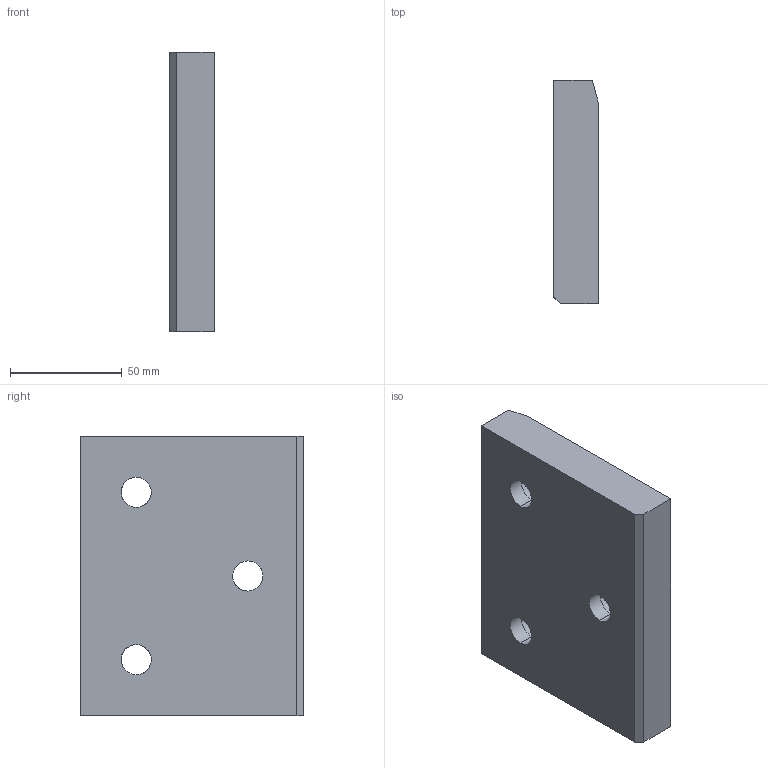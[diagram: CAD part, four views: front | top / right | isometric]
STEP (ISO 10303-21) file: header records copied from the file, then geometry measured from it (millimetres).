
FILE_DESCRIPTION(('CATIA V5 STEP Exchange'),'2;1');
FILE_NAME('C:\Users\borellobunino\Desktop\3D X SITO CF\A915\GSB_OILLESS_G22501125100\STEP-2.03\A915-125X100.stp','2019-07-14T13:48:33+00:00',('none'),('none'),'CATIA Version 5 Release 20 GA (IN-10)','CATIA V5 STEP AP203','none');
FILE_SCHEMA(('CONFIG_CONTROL_DESIGN'));
Length unit declared in the file: millimetre
Products named in the file (1): A915-125X100
Bounding box: 20 x 100 x 125 mm (x, y, z)
Volume: 232113.9 mm3; surface area: 35704.3 mm2
Topology: 1 solids, 1 shells, 30 faces, 99 edges, 74 vertices
Faces by surface type: cylinder 13, plane 11, torus 6
Entity records: 1437 total; most frequent: CARTESIAN_POINT 540, ORIENTED_EDGE 198, DIRECTION 135, EDGE_CURVE 99, AXIS2_PLACEMENT_3D 75, VERTEX_POINT 74, CIRCLE 44, EDGE_LOOP 39
